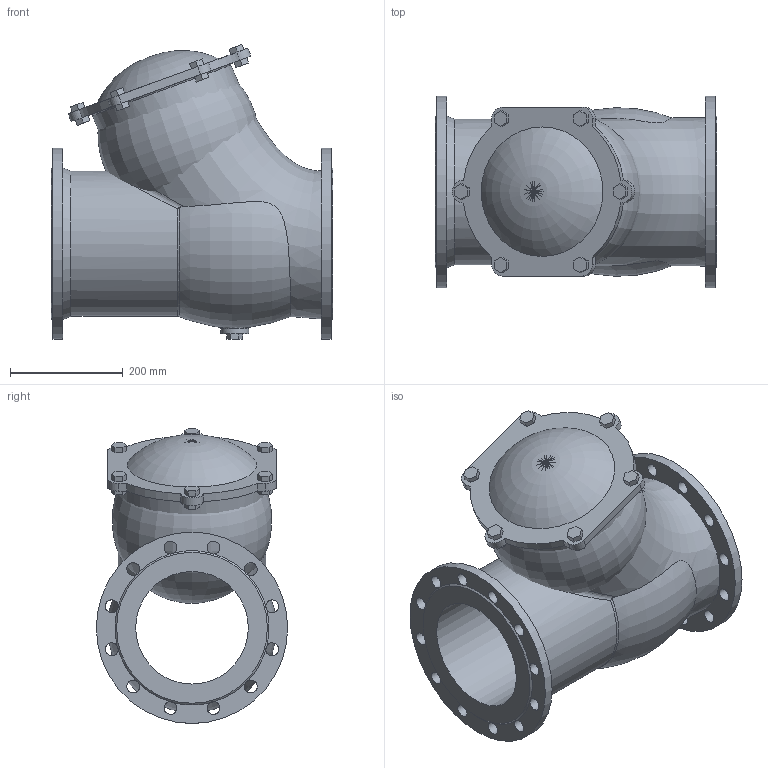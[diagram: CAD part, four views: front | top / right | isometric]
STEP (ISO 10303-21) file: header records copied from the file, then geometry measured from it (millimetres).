
FILE_DESCRIPTION(('STEP AP203'), '1');
FILE_NAME('抔黽鳧 012F.M DN200 PN16', '', ('UNSPECIFIED'), ('UNSPECIFIED'), 'ASCON STEP Converter 1.6', 'ASCON Math Kernel', '');
FILE_SCHEMA(('CONFIG_CONTROL_DESIGN'));
Length unit declared in the file: millimetre
Products named in the file (1): Клапан 012F.M DN200 PN16
Bounding box: 500 x 340 x 524 mm (x, y, z)
Volume: 13438554.6 mm3; surface area: 1428598.3 mm2
Topology: 1 solids, 1 shells, 196 faces, 539 edges, 343 vertices
Faces by surface type: plane 140, cylinder 46, bspline 4, cone 3, torus 3
Full cylindrical faces by diameter (mm): 23 x24, 50 x1, 200 x1, 258 x1, 340 x2
Entity records: 12492 total; most frequent: CARTESIAN_POINT 5885, DIRECTION 1047, ORIENTED_EDGE 998, EDGE_CURVE 499, AXIS2_PLACEMENT_3D 382, VERTEX_POINT 340, LINE 283, VECTOR 283
